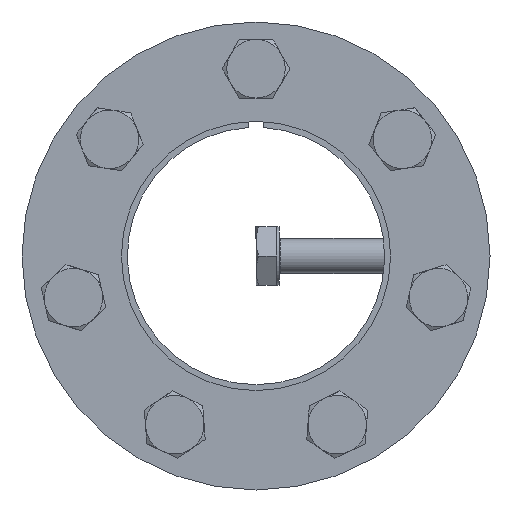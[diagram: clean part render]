
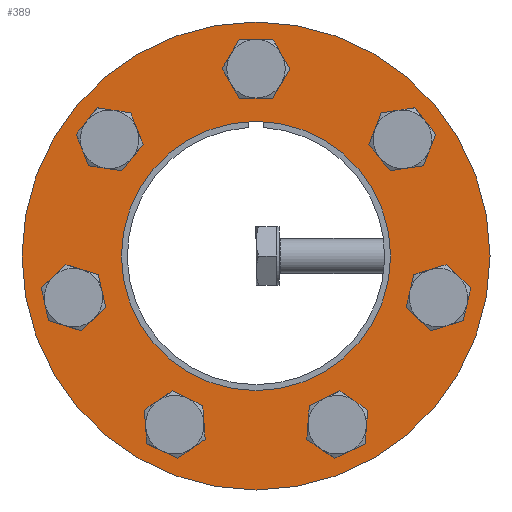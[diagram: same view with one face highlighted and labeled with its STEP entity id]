
A CAD part, front view. The second image highlights one B-rep face of the part: STEP entity #389.
In plain terms, the highlighted planar face has unit normal (0, -1, 0).
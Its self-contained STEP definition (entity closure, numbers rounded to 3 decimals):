
#389 = ADVANCED_FACE( '', ( #686, #687, #688, #689, #690, #691, #692, #693, #694 ), #695, .F. );
#686 = FACE_BOUND( '', #884, .T. );
#687 = FACE_BOUND( '', #885, .T. );
#688 = FACE_BOUND( '', #886, .T. );
#689 = FACE_OUTER_BOUND( '', #887, .T. );
#690 = FACE_BOUND( '', #888, .T. );
#691 = FACE_BOUND( '', #889, .T. );
#692 = FACE_BOUND( '', #890, .T. );
#693 = FACE_BOUND( '', #891, .T. );
#694 = FACE_BOUND( '', #892, .T. );
#695 = PLANE( '', #893 );
#884 = EDGE_LOOP( '', ( #1225 ) );
#885 = EDGE_LOOP( '', ( #1226 ) );
#886 = EDGE_LOOP( '', ( #1227 ) );
#887 = EDGE_LOOP( '', ( #1228 ) );
#888 = EDGE_LOOP( '', ( #1229 ) );
#889 = EDGE_LOOP( '', ( #1230 ) );
#890 = EDGE_LOOP( '', ( #1231 ) );
#891 = EDGE_LOOP( '', ( #1232 ) );
#892 = EDGE_LOOP( '', ( #1233 ) );
#893 = AXIS2_PLACEMENT_3D( '', #1234, #1235, #1236 );
#1225 = ORIENTED_EDGE( '', *, *, #1478, .T. );
#1226 = ORIENTED_EDGE( '', *, *, #1484, .T. );
#1227 = ORIENTED_EDGE( '', *, *, #1490, .T. );
#1228 = ORIENTED_EDGE( '', *, *, #1434, .T. );
#1229 = ORIENTED_EDGE( '', *, *, #1501, .F. );
#1230 = ORIENTED_EDGE( '', *, *, #1493, .T. );
#1231 = ORIENTED_EDGE( '', *, *, #1487, .T. );
#1232 = ORIENTED_EDGE( '', *, *, #1481, .T. );
#1233 = ORIENTED_EDGE( '', *, *, #1476, .T. );
#1234 = CARTESIAN_POINT( '', ( 0., -12.75, 40. ) );
#1235 = DIRECTION( '', ( 0., 1., 0. ) );
#1236 = DIRECTION( '', ( 0., 0., 1. ) );
#1434 = EDGE_CURVE( '', #1581, #1581, #1582, .T. );
#1476 = EDGE_CURVE( '', #1657, #1657, #1658, .T. );
#1478 = EDGE_CURVE( '', #1661, #1661, #1662, .T. );
#1481 = EDGE_CURVE( '', #1667, #1667, #1668, .T. );
#1484 = EDGE_CURVE( '', #1673, #1673, #1674, .T. );
#1487 = EDGE_CURVE( '', #1679, #1679, #1680, .T. );
#1490 = EDGE_CURVE( '', #1685, #1685, #1686, .T. );
#1493 = EDGE_CURVE( '', #1691, #1691, #1692, .T. );
#1501 = EDGE_CURVE( '', #1703, #1703, #1704, .T. );
#1581 = VERTEX_POINT( '', #1716 );
#1582 = CIRCLE( '', #1717, 40. );
#1657 = VERTEX_POINT( '', #1826 );
#1658 = CIRCLE( '', #1827, 3. );
#1661 = VERTEX_POINT( '', #1830 );
#1662 = CIRCLE( '', #1831, 3. );
#1667 = VERTEX_POINT( '', #1836 );
#1668 = CIRCLE( '', #1837, 3. );
#1673 = VERTEX_POINT( '', #1842 );
#1674 = CIRCLE( '', #1843, 3. );
#1679 = VERTEX_POINT( '', #1848 );
#1680 = CIRCLE( '', #1849, 3. );
#1685 = VERTEX_POINT( '', #1854 );
#1686 = CIRCLE( '', #1855, 3. );
#1691 = VERTEX_POINT( '', #1860 );
#1692 = CIRCLE( '', #1861, 3. );
#1703 = VERTEX_POINT( '', #1872 );
#1704 = CIRCLE( '', #1873, 23. );
#1716 = CARTESIAN_POINT( '', ( 0., -12.75, -40. ) );
#1717 = AXIS2_PLACEMENT_3D( '', #1890, #1891, #1892 );
#1826 = CARTESIAN_POINT( '', ( -23.148, -12.75, 22.297 ) );
#1827 = AXIS2_PLACEMENT_3D( '', #1960, #1961, #1962 );
#1830 = CARTESIAN_POINT( '', ( -31.865, -12.75, -4.196 ) );
#1831 = AXIS2_PLACEMENT_3D( '', #1966, #1967, #1968 );
#1836 = CARTESIAN_POINT( '', ( -16.587, -12.75, -27.529 ) );
#1837 = AXIS2_PLACEMENT_3D( '', #1975, #1976, #1977 );
#1842 = CARTESIAN_POINT( '', ( 11.181, -12.75, -30.133 ) );
#1843 = AXIS2_PLACEMENT_3D( '', #1984, #1985, #1986 );
#1848 = CARTESIAN_POINT( '', ( 30.53, -12.75, -10.045 ) );
#1849 = AXIS2_PLACEMENT_3D( '', #1993, #1994, #1995 );
#1854 = CARTESIAN_POINT( '', ( 26.889, -12.75, 17.606 ) );
#1855 = AXIS2_PLACEMENT_3D( '', #2002, #2003, #2004 );
#1860 = CARTESIAN_POINT( '', ( 3., -12.75, 32. ) );
#1861 = AXIS2_PLACEMENT_3D( '', #2011, #2012, #2013 );
#1872 = CARTESIAN_POINT( '', ( 0., -12.75, -23. ) );
#1873 = AXIS2_PLACEMENT_3D( '', #2035, #2036, #2037 );
#1890 = CARTESIAN_POINT( '', ( 0., -12.75, 0. ) );
#1891 = DIRECTION( '', ( 0., -1., 0. ) );
#1892 = DIRECTION( '', ( 0., 0., -1. ) );
#1960 = CARTESIAN_POINT( '', ( -25.019, -12.75, 19.952 ) );
#1961 = DIRECTION( '', ( 0., 1., 0. ) );
#1962 = DIRECTION( '', ( 0.623, 0., 0.782 ) );
#1966 = CARTESIAN_POINT( '', ( -31.198, -12.75, -7.121 ) );
#1967 = DIRECTION( '', ( 0., 1., 0. ) );
#1968 = DIRECTION( '', ( -0.223, 0., 0.975 ) );
#1975 = CARTESIAN_POINT( '', ( -13.884, -12.75, -28.831 ) );
#1976 = DIRECTION( '', ( 0., 1., 0. ) );
#1977 = DIRECTION( '', ( -0.901, 0., 0.434 ) );
#1984 = CARTESIAN_POINT( '', ( 13.884, -12.75, -28.831 ) );
#1985 = DIRECTION( '', ( 0., 1., 0. ) );
#1986 = DIRECTION( '', ( -0.901, 0., -0.434 ) );
#1993 = CARTESIAN_POINT( '', ( 31.198, -12.75, -7.121 ) );
#1994 = DIRECTION( '', ( 0., 1., 0. ) );
#1995 = DIRECTION( '', ( -0.223, 0., -0.975 ) );
#2002 = CARTESIAN_POINT( '', ( 25.019, -12.75, 19.952 ) );
#2003 = DIRECTION( '', ( 0., 1., 0. ) );
#2004 = DIRECTION( '', ( 0.623, 0., -0.782 ) );
#2011 = CARTESIAN_POINT( '', ( 0., -12.75, 32. ) );
#2012 = DIRECTION( '', ( 0., 1., 0. ) );
#2013 = DIRECTION( '', ( 1., 0., 0. ) );
#2035 = CARTESIAN_POINT( '', ( 0., -12.75, 0. ) );
#2036 = DIRECTION( '', ( 0., -1., 0. ) );
#2037 = DIRECTION( '', ( 0., 0., -1. ) );
